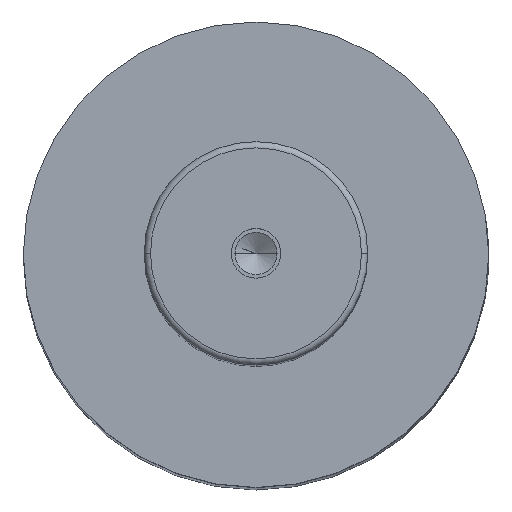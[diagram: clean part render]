
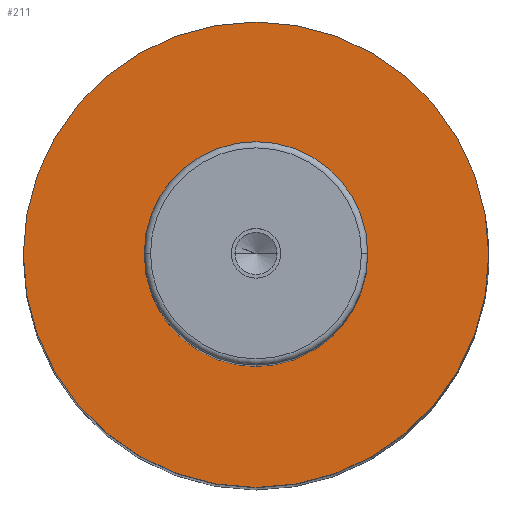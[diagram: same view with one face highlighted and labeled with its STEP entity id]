
A CAD part, top view. The second image highlights one B-rep face of the part: STEP entity #211.
In plain terms, the highlighted planar face has unit normal (0, 0, 1).
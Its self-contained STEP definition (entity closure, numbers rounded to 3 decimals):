
#109=PLANE('',#1266);
#138=FACE_BOUND('',#359,.T.);
#139=FACE_BOUND('',#360,.T.);
#211=ADVANCED_FACE('',(#138,#139),#109,.T.);
#359=EDGE_LOOP('',(#571,#572));
#360=EDGE_LOOP('',(#573,#574));
#451=CIRCLE('',#1260,18.);
#452=CIRCLE('',#1262,18.);
#453=CIRCLE('',#1264,37.5);
#454=CIRCLE('',#1265,37.5);
#571=ORIENTED_EDGE('',*,*,#970,.F.);
#572=ORIENTED_EDGE('',*,*,#971,.F.);
#573=ORIENTED_EDGE('',*,*,#969,.T.);
#574=ORIENTED_EDGE('',*,*,#967,.T.);
#856=VERTEX_POINT('',#1837);
#857=VERTEX_POINT('',#1839);
#858=VERTEX_POINT('',#1845);
#859=VERTEX_POINT('',#1846);
#967=EDGE_CURVE('',#857,#856,#451,.T.);
#969=EDGE_CURVE('',#856,#857,#452,.T.);
#970=EDGE_CURVE('',#858,#859,#453,.T.);
#971=EDGE_CURVE('',#859,#858,#454,.T.);
#1260=AXIS2_PLACEMENT_3D('',#1838,#1456,#1457);
#1262=AXIS2_PLACEMENT_3D('',#1842,#1461,#1462);
#1264=AXIS2_PLACEMENT_3D('',#1844,#1465,#1466);
#1265=AXIS2_PLACEMENT_3D('',#1847,#1467,#1468);
#1266=AXIS2_PLACEMENT_3D('',#1848,#1469,#1470);
#1456=DIRECTION('',(0.,0.,-1.));
#1457=DIRECTION('',(0.,1.,0.));
#1461=DIRECTION('',(0.,0.,-1.));
#1462=DIRECTION('',(0.,-1.,0.));
#1465=DIRECTION('',(0.,0.,-1.));
#1466=DIRECTION('',(0.,1.,0.));
#1467=DIRECTION('',(0.,0.,-1.));
#1468=DIRECTION('',(0.,-1.,0.));
#1469=DIRECTION('',(0.,0.,1.));
#1470=DIRECTION('',(0.,-1.,0.));
#1837=CARTESIAN_POINT('',(-18.,0.,232.));
#1838=CARTESIAN_POINT('',(0.,0.,232.));
#1839=CARTESIAN_POINT('',(18.,0.,232.));
#1842=CARTESIAN_POINT('',(0.,0.,232.));
#1844=CARTESIAN_POINT('',(0.,0.,232.));
#1845=CARTESIAN_POINT('',(37.5,0.,232.));
#1846=CARTESIAN_POINT('',(-37.5,0.,232.));
#1847=CARTESIAN_POINT('',(0.,0.,232.));
#1848=CARTESIAN_POINT('',(0.,0.,232.));
